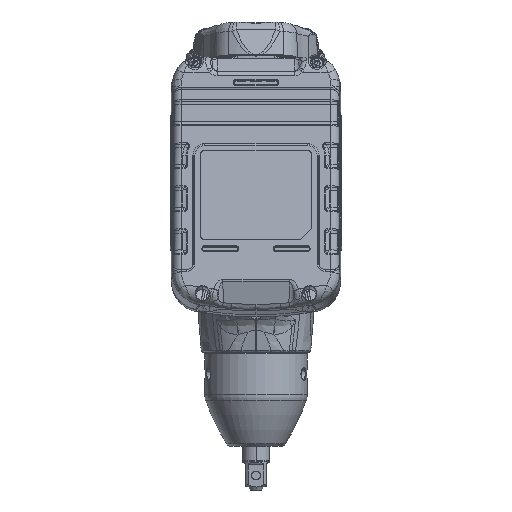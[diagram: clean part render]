
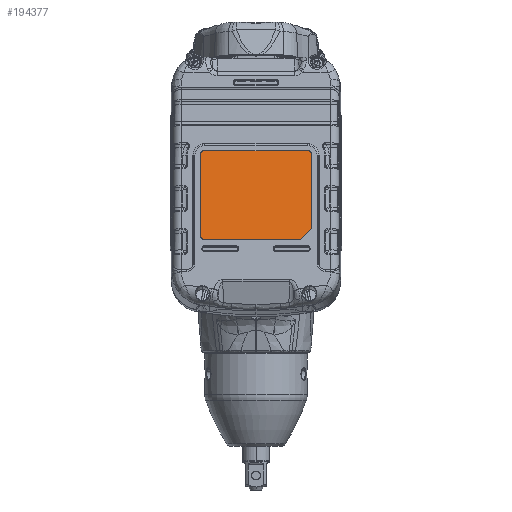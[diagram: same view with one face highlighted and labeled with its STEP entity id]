
A CAD part, front view. The second image highlights one B-rep face of the part: STEP entity #194377.
In plain terms, the highlighted planar face has unit normal (0, -0.988, 0.155).
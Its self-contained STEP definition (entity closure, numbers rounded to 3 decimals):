
#7224 = CARTESIAN_POINT ( 'NONE',  ( -25.1, -197.995, -1.864 ) ) ;
#8911 = ORIENTED_EDGE ( 'NONE', *, *, #80779, .T. ) ;
#9170 = EDGE_CURVE ( 'NONE', #44070, #72410, #213233, .T. ) ;
#9436 = VERTEX_POINT ( 'NONE', #110079 ) ;
#10205 = CARTESIAN_POINT ( 'NONE',  ( -25.1, -192.394, 33.901 ) ) ;
#11472 = DIRECTION ( 'NONE',  ( 0., -0.155, -0.988 ) ) ;
#13887 = EDGE_CURVE ( 'NONE', #194000, #44070, #163843, .T. ) ;
#19447 = ORIENTED_EDGE ( 'NONE', *, *, #9170, .T. ) ;
#25101 = AXIS2_PLACEMENT_3D ( 'NONE', #59132, #193980, #137525 ) ;
#25336 = CARTESIAN_POINT ( 'NONE',  ( -23.1, -192.394, 33.901 ) ) ;
#26630 = DIRECTION ( 'NONE',  ( 0., -0.988, 0.155 ) ) ;
#27420 = CARTESIAN_POINT ( 'NONE',  ( 25.1, -192.394, 33.901 ) ) ;
#36320 = VECTOR ( 'NONE', #11472, 1000. ) ;
#42670 = ORIENTED_EDGE ( 'NONE', *, *, #91593, .T. ) ;
#44070 = VERTEX_POINT ( 'NONE', #207762 ) ;
#44158 = LINE ( 'NONE', #27420, #235319 ) ;
#51135 = VERTEX_POINT ( 'NONE', #245707 ) ;
#53586 = EDGE_CURVE ( 'NONE', #157856, #154637, #186096, .T. ) ;
#59132 = CARTESIAN_POINT ( 'NONE',  ( -23.1, -197.995, -1.864 ) ) ;
#64049 = VECTOR ( 'NONE', #244617, 1000. ) ;
#67134 = FACE_OUTER_BOUND ( 'NONE', #101759, .T. ) ;
#68793 = CARTESIAN_POINT ( 'NONE',  ( -23.1, -198.305, -3.839 ) ) ;
#70414 = VECTOR ( 'NONE', #132517, 1000. ) ;
#72410 = VERTEX_POINT ( 'NONE', #208820 ) ;
#80779 = EDGE_CURVE ( 'NONE', #9436, #157856, #163331, .T. ) ;
#89344 = DIRECTION ( 'NONE',  ( 1., 0., 0. ) ) ;
#91593 = EDGE_CURVE ( 'NONE', #154637, #194000, #135892, .T. ) ;
#93407 = CARTESIAN_POINT ( 'NONE',  ( -25.1, -192.394, 33.901 ) ) ;
#101759 = EDGE_LOOP ( 'NONE', ( #8911, #159780, #42670, #136568, #19447, #152831, #105567, #176090 ) ) ;
#105567 = ORIENTED_EDGE ( 'NONE', *, *, #230103, .T. ) ;
#108509 = LINE ( 'NONE', #206004, #64049 ) ;
#110050 = AXIS2_PLACEMENT_3D ( 'NONE', #25336, #26630, #202499 ) ;
#110079 = CARTESIAN_POINT ( 'NONE',  ( -23.1, -192.085, 35.876 ) ) ;
#115754 = CARTESIAN_POINT ( 'NONE',  ( 25.1, -197.531, 1.1 ) ) ;
#119400 = CARTESIAN_POINT ( 'NONE',  ( 25.1, -192.394, 33.901 ) ) ;
#121177 = DIRECTION ( 'NONE',  ( -1., 0., 0. ) ) ;
#129271 = CARTESIAN_POINT ( 'NONE',  ( 23.1, -192.394, 33.901 ) ) ;
#132517 = DIRECTION ( 'NONE',  ( 0.707, 0.109, 0.699 ) ) ;
#135892 = CIRCLE ( 'NONE', #25101, 2. ) ;
#136308 = CIRCLE ( 'NONE', #169100, 2. ) ;
#136568 = ORIENTED_EDGE ( 'NONE', *, *, #13887, .T. ) ;
#137525 = DIRECTION ( 'NONE',  ( 0., 0.155, 0.988 ) ) ;
#137805 = AXIS2_PLACEMENT_3D ( 'NONE', #219917, #238015, #121177 ) ;
#152831 = ORIENTED_EDGE ( 'NONE', *, *, #167182, .T. ) ;
#154637 = VERTEX_POINT ( 'NONE', #7224 ) ;
#157856 = VERTEX_POINT ( 'NONE', #93407 ) ;
#159780 = ORIENTED_EDGE ( 'NONE', *, *, #53586, .T. ) ;
#160938 = PLANE ( 'NONE',  #137805 ) ;
#163331 = CIRCLE ( 'NONE', #110050, 2. ) ;
#163843 = LINE ( 'NONE', #68793, #181592 ) ;
#163957 = DIRECTION ( 'NONE',  ( 0., -0.988, 0.155 ) ) ;
#164831 = DIRECTION ( 'NONE',  ( 0., 0.155, 0.988 ) ) ;
#167182 = EDGE_CURVE ( 'NONE', #72410, #218148, #44158, .T. ) ;
#169100 = AXIS2_PLACEMENT_3D ( 'NONE', #129271, #163957, #207483 ) ;
#176090 = ORIENTED_EDGE ( 'NONE', *, *, #199911, .T. ) ;
#181592 = VECTOR ( 'NONE', #89344, 1000. ) ;
#186096 = LINE ( 'NONE', #10205, #36320 ) ;
#193980 = DIRECTION ( 'NONE',  ( 0., -0.988, 0.155 ) ) ;
#194000 = VERTEX_POINT ( 'NONE', #231656 ) ;
#194377 = ADVANCED_FACE ( 'NONE', ( #67134 ), #160938, .T. ) ;
#199911 = EDGE_CURVE ( 'NONE', #51135, #9436, #108509, .T. ) ;
#202499 = DIRECTION ( 'NONE',  ( 0., -0.155, -0.988 ) ) ;
#206004 = CARTESIAN_POINT ( 'NONE',  ( -23.1, -192.085, 35.876 ) ) ;
#207483 = DIRECTION ( 'NONE',  ( 0., -0.155, -0.988 ) ) ;
#207762 = CARTESIAN_POINT ( 'NONE',  ( 20.1, -198.305, -3.839 ) ) ;
#208820 = CARTESIAN_POINT ( 'NONE',  ( 25.1, -197.531, 1.1 ) ) ;
#213233 = LINE ( 'NONE', #115754, #70414 ) ;
#218148 = VERTEX_POINT ( 'NONE', #119400 ) ;
#219917 = CARTESIAN_POINT ( 'NONE',  ( -23.1, -192.394, 33.901 ) ) ;
#230103 = EDGE_CURVE ( 'NONE', #218148, #51135, #136308, .T. ) ;
#231656 = CARTESIAN_POINT ( 'NONE',  ( -23.1, -198.305, -3.839 ) ) ;
#235319 = VECTOR ( 'NONE', #164831, 1000. ) ;
#238015 = DIRECTION ( 'NONE',  ( 0., -0.988, 0.155 ) ) ;
#244617 = DIRECTION ( 'NONE',  ( -1., 0., 0. ) ) ;
#245707 = CARTESIAN_POINT ( 'NONE',  ( 23.1, -192.085, 35.876 ) ) ;
